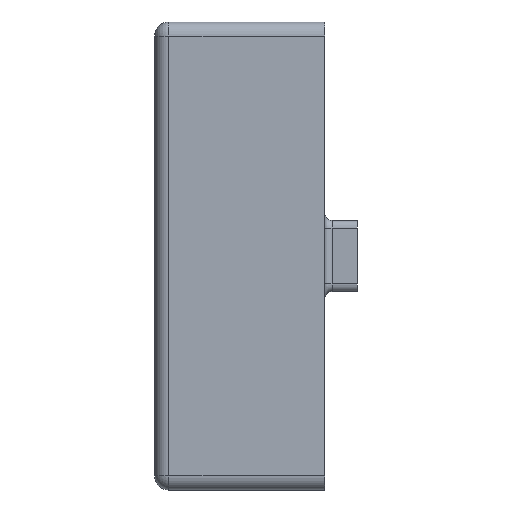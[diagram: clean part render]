
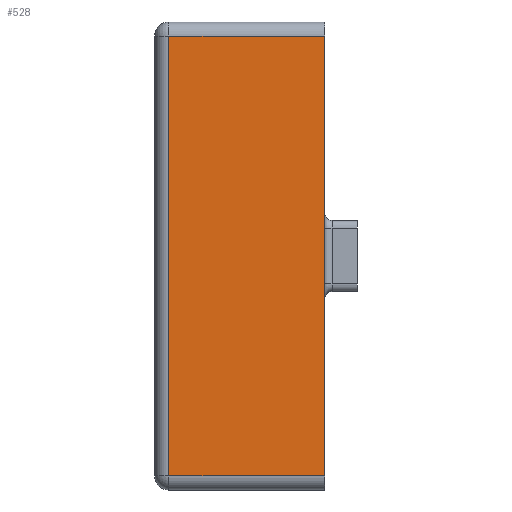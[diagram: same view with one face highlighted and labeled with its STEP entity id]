
A CAD part, left-side view. The second image highlights one B-rep face of the part: STEP entity #528.
In plain terms, the highlighted planar face has unit normal (-1, 0, 0).
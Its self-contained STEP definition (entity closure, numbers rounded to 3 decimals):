
#45 = VERTEX_POINT ( 'NONE', #255 ) ;
#104 = CARTESIAN_POINT ( 'NONE',  ( -20., 12.206, -15.5 ) ) ;
#113 = EDGE_CURVE ( 'NONE', #1182, #1548, #708, .T. ) ;
#204 = EDGE_LOOP ( 'NONE', ( #473, #1014, #1457, #854 ) ) ;
#255 = CARTESIAN_POINT ( 'NONE',  ( -20., 1.206, 15.5 ) ) ;
#310 = CARTESIAN_POINT ( 'NONE',  ( -20., 1.206, 16.5 ) ) ;
#473 = ORIENTED_EDGE ( 'NONE', *, *, #2217, .F. ) ;
#528 = ADVANCED_FACE ( 'NONE', ( #1485 ), #2033, .F. ) ;
#536 = CARTESIAN_POINT ( 'NONE',  ( -20., 1.206, -15.5 ) ) ;
#708 = LINE ( 'NONE', #1101, #1324 ) ;
#720 = LINE ( 'NONE', #536, #1572 ) ;
#728 = DIRECTION ( 'NONE',  ( 0., 1., 0. ) ) ;
#746 = VECTOR ( 'NONE', #728, 1000. ) ;
#840 = LINE ( 'NONE', #2246, #2378 ) ;
#854 = ORIENTED_EDGE ( 'NONE', *, *, #1704, .T. ) ;
#997 = VERTEX_POINT ( 'NONE', #1481 ) ;
#1014 = ORIENTED_EDGE ( 'NONE', *, *, #1399, .T. ) ;
#1076 = LINE ( 'NONE', #1483, #746 ) ;
#1101 = CARTESIAN_POINT ( 'NONE',  ( -20., 12.206, 16.5 ) ) ;
#1130 = DIRECTION ( 'NONE',  ( 0., 0., -1. ) ) ;
#1182 = VERTEX_POINT ( 'NONE', #1524 ) ;
#1273 = DIRECTION ( 'NONE',  ( 0., 0., -1. ) ) ;
#1308 = DIRECTION ( 'NONE',  ( 0., -1., 0. ) ) ;
#1324 = VECTOR ( 'NONE', #1130, 1000. ) ;
#1399 = EDGE_CURVE ( 'NONE', #45, #1182, #1076, .T. ) ;
#1457 = ORIENTED_EDGE ( 'NONE', *, *, #113, .T. ) ;
#1481 = CARTESIAN_POINT ( 'NONE',  ( -20., 1.206, -15.5 ) ) ;
#1483 = CARTESIAN_POINT ( 'NONE',  ( -20., 13.206, 15.5 ) ) ;
#1485 = FACE_OUTER_BOUND ( 'NONE', #204, .T. ) ;
#1524 = CARTESIAN_POINT ( 'NONE',  ( -20., 12.206, 15.5 ) ) ;
#1548 = VERTEX_POINT ( 'NONE', #104 ) ;
#1572 = VECTOR ( 'NONE', #1308, 1000. ) ;
#1704 = EDGE_CURVE ( 'NONE', #1548, #997, #720, .T. ) ;
#1981 = DIRECTION ( 'NONE',  ( 0., 0., -1. ) ) ;
#2033 = PLANE ( 'NONE',  #2403 ) ;
#2217 = EDGE_CURVE ( 'NONE', #45, #997, #840, .T. ) ;
#2246 = CARTESIAN_POINT ( 'NONE',  ( -20., 1.206, 16.5 ) ) ;
#2378 = VECTOR ( 'NONE', #1981, 1000. ) ;
#2403 = AXIS2_PLACEMENT_3D ( 'NONE', #310, #2408, #1273 ) ;
#2408 = DIRECTION ( 'NONE',  ( 1., 0., 0. ) ) ;
